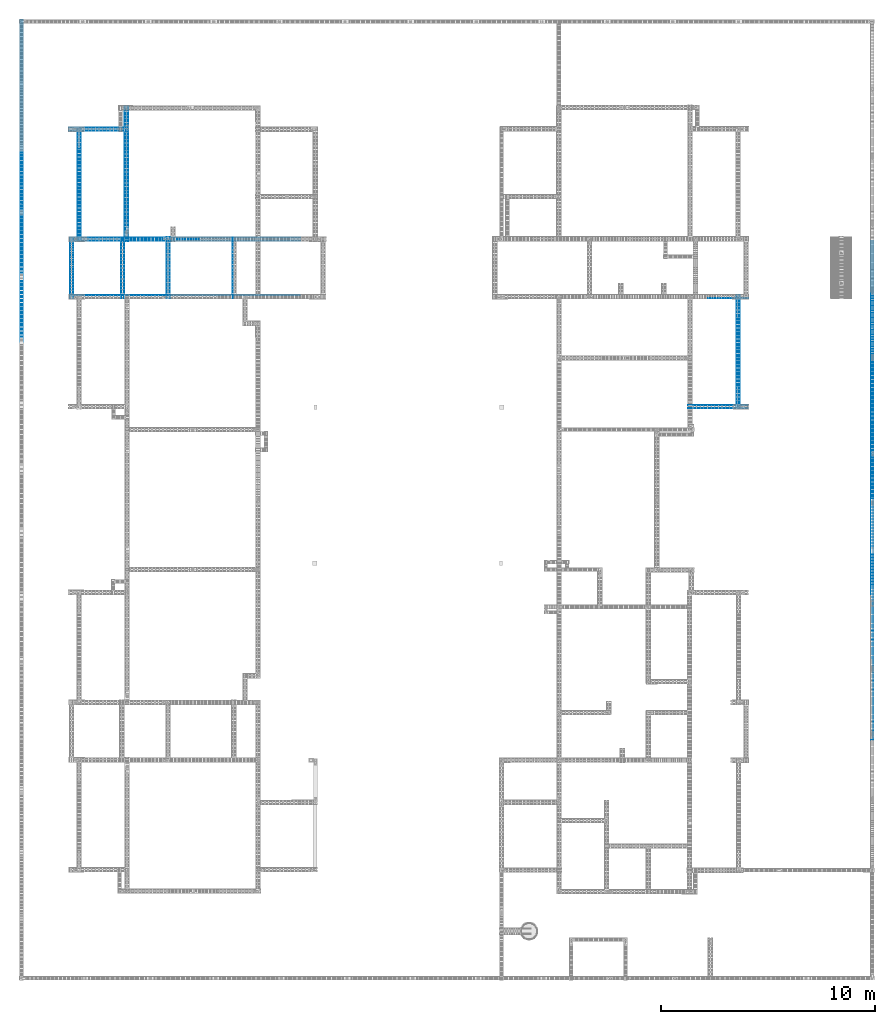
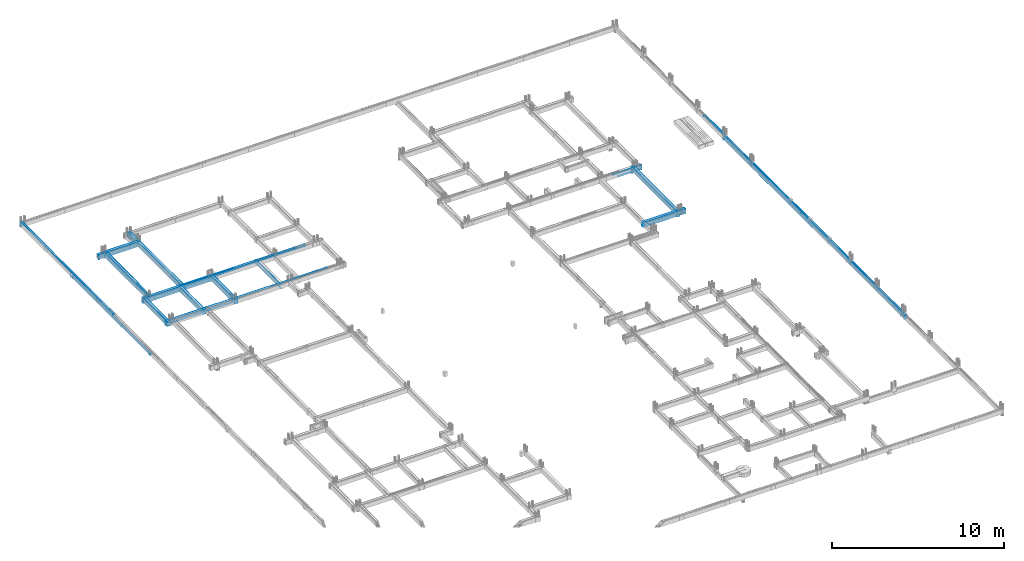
# One storey, part 13 of 150: 60 reinforcing bars.
"""IFC4 building model written with IfcOpenShell, lengths in centimetres."""

from ifc_helpers import new_model, entity, si_unit, derived_unit, frame, origin_with_axes, place, context, project, spatial, element, save


model = new_model("IFC4")

# Units and contexts
model_context = context("Model", 3, precision=1e-05, world=origin_with_axes(), identifier="Body")
ifc_project = project(units=[si_unit("LENGTHUNIT", "METRE", prefix="CENTI"), si_unit("VOLUMEUNIT", "CUBIC_METRE"), si_unit("AREAUNIT", "SQUARE_METRE"), si_unit("POWERUNIT", "WATT"), si_unit("LUMINOUSFLUXUNIT", "LUMEN"), si_unit("ELECTRICCURRENTUNIT", "AMPERE"), si_unit("PRESSUREUNIT", "PASCAL", prefix="KILO"), si_unit("MASSUNIT", "GRAM", prefix="KILO"), si_unit("PLANEANGLEUNIT", "RADIAN"), derived_unit("VOLUMETRICFLOWRATEUNIT", [(si_unit("LENGTHUNIT", "METRE"), 3), (si_unit("TIMEUNIT", "SECOND"), -1)])], contexts=[model_context])

# Site, building, storey
site_placement = place(None, frame((-4000.0, 0.0, 0.0), z_axis=(0.0, 0.0, 1.0), x_axis=(1.0, 0.0, 0.0)))
site = spatial("IfcSite", under=ifc_project, at=site_placement, Name="PADRÃO")
building_placement = place(site_placement, frame((0.0, 0.0, -14.0)))
building = spatial("IfcBuilding", under=site, at=building_placement, Name="CRECHE PRÉ-ESCOLA TIPO 2")
placement = place(building_placement, origin_with_axes())
storey_placement = place(placement, frame((0.0, 0.0, 30.0), z_axis=(0.0, 0.0, 1.0), x_axis=(1.0, 0.0, 0.0)))
storey = spatial("IfcBuildingStorey", under=building, at=storey_placement, Name="VIGA BALDRAME", CompositionType="ELEMENT", Elevation=16.0)

# Reinforcing bars
for number, where, z_axis, x_axis, name in (
    (1, (370.8518751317, 3990.85, -17.1), (0.0, 0.0, 1.0), (1.0, 0.0, 0.0), "V104 - Longitudinal inferior"),
    (2, (370.8518751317, 3976.65, -17.1), (0.0, 0.0, 1.0), (1.0, 0.0, 0.0), "V104 - Longitudinal inferior"),
):
    element("IfcReinforcingBar", number, at=place(storey_placement, frame(where, z_axis=z_axis, x_axis=x_axis)), inside=storey, Name=name, BarLength=0.0, CrossSectionArea=5.0265482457e-05, NominalDiameter=0.8, PredefinedType="MAIN", context=model_context, shape_type="AdvancedSweptSolid", body=[
        entity("IfcSweptDiskSolid", entity("IfcCompositeCurve", [entity("IfcCompositeCurveSegment", "CONTINUOUS", True, entity("IfcPolyline", [entity("IfcCartesianPoint", [-137.8218751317, 0.0, -10.0]), entity("IfcCartesianPoint", [137.4181248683, 0.0, -10.0])])), entity("IfcCompositeCurveSegment", "CONTINUOUS", True, entity("IfcPolyline", [entity("IfcCartesianPoint", [137.4181248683, 0.0, -10.0]), entity("IfcCartesianPoint", [137.4181248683, 0.0, 0.0])]))], False), 0.4),
    ])
for number, where, z_axis, x_axis, name in (
    (3, (370.85, 3990.75, -2.49531217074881), (0.0, 0.0, 1.0), (1.0, 0.0, 0.0), "V104 - Longitudinal superior"),
    (4, (370.85, 3976.75, -2.49531217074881), (0.0, 0.0, 1.0), (1.0, 0.0, 0.0), "V104 - Longitudinal superior"),
):
    element("IfcReinforcingBar", number, at=place(storey_placement, frame(where, z_axis=z_axis, x_axis=x_axis)), inside=storey, Name=name, BarLength=0.0, CrossSectionArea=7.853981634e-05, NominalDiameter=1.0, PredefinedType="MAIN", context=model_context, shape_type="AdvancedSweptSolid", body=[
        entity("IfcSweptDiskSolid", entity("IfcCompositeCurve", [entity("IfcCompositeCurveSegment", "CONTINUOUS", True, entity("IfcPolyline", [entity("IfcCartesianPoint", [-137.32, 0.0, -26.5046878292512]), entity("IfcCartesianPoint", [-137.32, 0.0, -0.504687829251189])])), entity("IfcCompositeCurveSegment", "CONTINUOUS", True, entity("IfcPolyline", [entity("IfcCartesianPoint", [-137.32, 0.0, -0.504687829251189]), entity("IfcCartesianPoint", [137.32, 0.0, -0.504687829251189])])), entity("IfcCompositeCurveSegment", "CONTINUOUS", True, entity("IfcPolyline", [entity("IfcCartesianPoint", [137.32, 0.0, -0.504687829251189]), entity("IfcCartesianPoint", [137.32, 0.0, -19.6170129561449])]))], False), 0.5),
    ])
for number, where, z_axis, x_axis, name in (
    (5, (463.005, 3461.9, -26.7), (0.0, 0.0, 1.0), (1.0, 0.0, 0.0), "V110 - Longitudinal inferior"),
    (6, (463.005, 3476.1, -26.7), (0.0, 0.0, 1.0), (1.0, 0.0, 0.0), "V110 - Longitudinal inferior"),
):
    element("IfcReinforcingBar", number, at=place(storey_placement, frame(where, z_axis=z_axis, x_axis=x_axis)), inside=storey, Name=name, BarLength=0.0, CrossSectionArea=5.0265482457e-05, NominalDiameter=0.8, PredefinedType="MAIN", context=model_context, shape_type="AdvancedSweptSolid", body=[
        entity("IfcSweptDiskSolid", entity("IfcCompositeCurve", [entity("IfcCompositeCurveSegment", "CONTINUOUS", True, entity("IfcPolyline", [entity("IfcCartesianPoint", [-228.995, 0.0, -0.4]), entity("IfcCartesianPoint", [228.995, 0.0, -0.4])]))], False), 0.4),
    ])
reinforcing_bar_1_placement = place(storey_placement, frame((658.73, 3469.0, -2.5), z_axis=(0.0, 0.0, 1.0), x_axis=(1.0, 0.0, 0.0)))
element("IfcReinforcingBar", 7, at=reinforcing_bar_1_placement, inside=storey, Name="V110 - Longitudinal superior", BarLength=0.0, CrossSectionArea=0.000122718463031, NominalDiameter=1.25, PredefinedType="MAIN", context=model_context, shape_type="AdvancedSweptSolid", body=[
    entity("IfcSweptDiskSolid", entity("IfcCompositeCurve", [entity("IfcCompositeCurveSegment", "CONTINUOUS", True, entity("IfcPolyline", [entity("IfcCartesianPoint", [-180.0, 0.0, -0.625]), entity("IfcCartesianPoint", [180.0, 0.0, -0.625])]))], False), 0.625),
])
for number, where, z_axis, x_axis, name in (
    (8, (774.247070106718, 3475.875, -2.49414021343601), (0.0, 0.0, 1.0), (1.0, 0.0, 0.0), "V110 - Longitudinal superior"),
    (9, (774.247070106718, 3462.125, -2.49414021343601), (0.0, 0.0, 1.0), (1.0, 0.0, 0.0), "V110 - Longitudinal superior"),
):
    element("IfcReinforcingBar", number, at=place(storey_placement, frame(where, z_axis=z_axis, x_axis=x_axis)), inside=storey, Name=name, BarLength=0.0, CrossSectionArea=0.000122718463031, NominalDiameter=1.25, PredefinedType="MAIN", context=model_context, shape_type="AdvancedSweptSolid", body=[
        entity("IfcSweptDiskSolid", entity("IfcCompositeCurve", [entity("IfcCompositeCurveSegment", "CONTINUOUS", True, entity("IfcPolyline", [entity("IfcCartesianPoint", [-537.882070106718, 0.0, -26.630859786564]), entity("IfcCartesianPoint", [-537.882070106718, 0.0, -0.630859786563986])])), entity("IfcCompositeCurveSegment", "CONTINUOUS", True, entity("IfcPolyline", [entity("IfcCartesianPoint", [-537.882070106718, 0.0, -0.630859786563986]), entity("IfcCartesianPoint", [538.512929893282, 0.0, -0.630859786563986])]))], False), 0.625),
    ])
reinforcing_bar_2_placement = place(storey_placement, frame((463.7381248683, 3207.12, -3.2095935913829), z_axis=(0.0, 0.0, 1.0), x_axis=(1.0, 0.0, 0.0)))
element("IfcReinforcingBar", 10, at=reinforcing_bar_2_placement, inside=storey, Name="V113 - Longitudinal inferior", BarLength=0.0, CrossSectionArea=5.0265482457e-05, NominalDiameter=0.8, PredefinedType="MAIN", context=model_context, shape_type="AdvancedSweptSolid", body=[
    entity("IfcSweptDiskSolid", entity("IfcCompositeCurve", [entity("IfcCompositeCurveSegment", "CONTINUOUS", True, entity("IfcPolyline", [entity("IfcCartesianPoint", [-227.5981248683, 0.0, 0.0]), entity("IfcCartesianPoint", [-227.5981248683, 0.0, -23.8904064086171])])), entity("IfcCompositeCurveSegment", "CONTINUOUS", True, entity("IfcPolyline", [entity("IfcCartesianPoint", [-227.5981248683, 0.0, -23.8904064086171]), entity("IfcCartesianPoint", [228.0018751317, 0.0, -23.8904064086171])]))], False), 0.4),
])
reinforcing_bar_3_placement = place(storey_placement, frame((773.252656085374, 3207.02, -2.49531217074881), z_axis=(0.0, 0.0, 1.0), x_axis=(1.0, 0.0, 0.0)))
element("IfcReinforcingBar", 11, at=reinforcing_bar_3_placement, inside=storey, Name="V113 - Longitudinal superior", BarLength=0.0, CrossSectionArea=7.853981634e-05, NominalDiameter=1.0, PredefinedType="MAIN", context=model_context, shape_type="AdvancedSweptSolid", body=[
    entity("IfcSweptDiskSolid", entity("IfcCompositeCurve", [entity("IfcCompositeCurveSegment", "CONTINUOUS", True, entity("IfcPolyline", [entity("IfcCartesianPoint", [-537.012656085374, 0.0, -26.5046878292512]), entity("IfcCartesianPoint", [-537.012656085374, 0.0, -0.504687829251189])])), entity("IfcCompositeCurveSegment", "CONTINUOUS", True, entity("IfcPolyline", [entity("IfcCartesianPoint", [-537.012656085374, 0.0, -0.504687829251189]), entity("IfcCartesianPoint", [537.517343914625, 0.0, -0.504687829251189])]))], False), 0.5),
])
reinforcing_bar_4_placement = place(storey_placement, frame((3334.25293155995, 3193.145, -11.5851398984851), z_axis=(0.0, 0.0, 1.0), x_axis=(1.0, 0.0, 0.0)))
element("IfcReinforcingBar", 12, at=reinforcing_bar_4_placement, inside=storey, Name="V114 - Longitudinal inferior", BarLength=0.0, CrossSectionArea=0.000122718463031, NominalDiameter=1.25, PredefinedType="MAIN", context=model_context, shape_type="AdvancedSweptSolid", body=[
    entity("IfcSweptDiskSolid", entity("IfcCompositeCurve", [entity("IfcCompositeCurveSegment", "CONTINUOUS", True, entity("IfcPolyline", [entity("IfcCartesianPoint", [-75.5029298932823, 0.0, -15.2898601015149]), entity("IfcCartesianPoint", [74.8720701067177, 0.0, -15.2898601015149])])), entity("IfcCompositeCurveSegment", "CONTINUOUS", True, entity("IfcPolyline", [entity("IfcCartesianPoint", [74.8720701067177, 0.0, -15.2898601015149]), entity("IfcCartesianPoint", [74.8720701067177, 0.0, 0.0])]))], False), 0.625),
])
reinforcing_bar_5_placement = place(storey_placement, frame((3316.75234558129, 3193.02, -2.49531217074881), z_axis=(0.0, 0.0, 1.0), x_axis=(1.0, 0.0, 0.0)))
element("IfcReinforcingBar", 13, at=reinforcing_bar_5_placement, inside=storey, Name="V114 - Longitudinal superior", BarLength=0.0, CrossSectionArea=7.853981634e-05, NominalDiameter=1.0, PredefinedType="MAIN", context=model_context, shape_type="AdvancedSweptSolid", body=[
    entity("IfcSweptDiskSolid", entity("IfcCompositeCurve", [entity("IfcCompositeCurveSegment", "CONTINUOUS", True, entity("IfcPolyline", [entity("IfcCartesianPoint", [-93.0023439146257, 0.0, -0.504687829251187]), entity("IfcCartesianPoint", [92.4976560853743, 0.0, -0.504687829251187])])), entity("IfcCompositeCurveSegment", "CONTINUOUS", True, entity("IfcPolyline", [entity("IfcCartesianPoint", [92.4976560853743, 0.0, -0.504687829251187]), entity("IfcCartesianPoint", [92.4976560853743, 0.0, -26.5046878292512])]))], False), 0.5),
])
for number, where, z_axis, x_axis, name in (
    (14, (3269.75, 2677.92, -26.7), (0.0, 0.0, 1.0), (1.0, 0.0, 0.0), "V118 - Longitudinal inferior"),
    (15, (3269.75, 2692.12, -26.7), (0.0, 0.0, 1.0), (1.0, 0.0, 0.0), "V118 - Longitudinal inferior"),
):
    element("IfcReinforcingBar", number, at=place(storey_placement, frame(where, z_axis=z_axis, x_axis=x_axis)), inside=storey, Name=name, BarLength=0.0, CrossSectionArea=5.0265482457e-05, NominalDiameter=0.8, PredefinedType="MAIN", context=model_context, shape_type="AdvancedSweptSolid", body=[
        entity("IfcSweptDiskSolid", entity("IfcCompositeCurve", [entity("IfcCompositeCurveSegment", "CONTINUOUS", True, entity("IfcPolyline", [entity("IfcCartesianPoint", [-139.25, 0.0, -0.4]), entity("IfcCartesianPoint", [139.25, 0.0, -0.4])]))], False), 0.4),
    ])
for number, where, z_axis, x_axis, name in (
    (16, (3269.75, 2692.02, -2.49531217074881), (0.0, 0.0, 1.0), (1.0, 0.0, 0.0), "V118 - Longitudinal superior"),
    (17, (3269.75, 2678.02, -2.49531217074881), (0.0, 0.0, 1.0), (1.0, 0.0, 0.0), "V118 - Longitudinal superior"),
):
    element("IfcReinforcingBar", number, at=place(storey_placement, frame(where, z_axis=z_axis, x_axis=x_axis)), inside=storey, Name=name, BarLength=0.0, CrossSectionArea=7.853981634e-05, NominalDiameter=1.0, PredefinedType="MAIN", context=model_context, shape_type="AdvancedSweptSolid", body=[
        entity("IfcSweptDiskSolid", entity("IfcCompositeCurve", [entity("IfcCompositeCurveSegment", "CONTINUOUS", True, entity("IfcPolyline", [entity("IfcCartesianPoint", [-138.75, 0.0, -26.5046878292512]), entity("IfcCartesianPoint", [-138.75, 0.0, -0.504687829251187])])), entity("IfcCompositeCurveSegment", "CONTINUOUS", True, entity("IfcPolyline", [entity("IfcCartesianPoint", [-138.75, 0.0, -0.504687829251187]), entity("IfcCartesianPoint", [138.75, 0.0, -0.504687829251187])])), entity("IfcCompositeCurveSegment", "CONTINUOUS", True, entity("IfcPolyline", [entity("IfcCartesianPoint", [138.75, 0.0, -0.504687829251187]), entity("IfcCartesianPoint", [138.75, 0.0, -26.5046878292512])]))], False), 0.5),
    ])
for number, where, z_axis, x_axis, name in (
    (18, (4.4, 3444.5, -26.7), (0.0, 0.0, 1.0), (1.0, 0.0, 0.0), "V159 - Longitudinal inferior"),
    (19, (13.6, 3444.5, -26.7), (0.0, 0.0, 1.0), (1.0, 0.0, 0.0), "V159 - Longitudinal inferior"),
):
    element("IfcReinforcingBar", number, at=place(storey_placement, frame(where, z_axis=z_axis, x_axis=x_axis)), inside=storey, Name=name, BarLength=0.0, CrossSectionArea=5.0265482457e-05, NominalDiameter=0.8, PredefinedType="MAIN", context=model_context, shape_type="AdvancedSweptSolid", body=[
        entity("IfcSweptDiskSolid", entity("IfcCompositeCurve", [entity("IfcCompositeCurveSegment", "CONTINUOUS", True, entity("IfcPolyline", [entity("IfcCartesianPoint", [0.0, -455.0, -0.4]), entity("IfcCartesianPoint", [0.0, 455.0, -0.4])]))], False), 0.4),
    ])
for number, where, z_axis, x_axis, name in (
    (20, (4.4, 3955.08208218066, -2.49624973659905), (0.0, 0.0, 1.0), (1.0, 0.0, 0.0), "V159 - Longitudinal superior"),
    (21, (13.6, 3955.08208218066, -2.49624973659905), (0.0, 0.0, 1.0), (1.0, 0.0, 0.0), "V159 - Longitudinal superior"),
):
    element("IfcReinforcingBar", number, at=place(storey_placement, frame(where, z_axis=z_axis, x_axis=x_axis)), inside=storey, Name=name, BarLength=0.0, CrossSectionArea=5.0265482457e-05, NominalDiameter=0.8, PredefinedType="MAIN", context=model_context, shape_type="AdvancedSweptSolid", body=[
        entity("IfcSweptDiskSolid", entity("IfcCompositeCurve", [entity("IfcCompositeCurveSegment", "CONTINUOUS", True, entity("IfcPolyline", [entity("IfcCartesianPoint", [0.0, -538.421668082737, -0.403750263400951]), entity("IfcCartesianPoint", [0.0, 538.017917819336, -0.403750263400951])])), entity("IfcCompositeCurveSegment", "CONTINUOUS", True, entity("IfcPolyline", [entity("IfcCartesianPoint", [0.0, 538.017917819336, -0.403750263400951]), entity("IfcCartesianPoint", [0.0, 538.017917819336, -25.7337502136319])]))], False), 0.4),
    ])
for number, where, z_axis, x_axis, name in (
    (22, (250.74, 3334.51, -26.5), (0.0, 0.0, 1.0), (1.0, 0.0, 0.0), "V164 - Longitudinal inferior"),
    (23, (236.74, 3334.51, -26.5), (0.0, 0.0, 1.0), (1.0, 0.0, 0.0), "V164 - Longitudinal inferior"),
):
    element("IfcReinforcingBar", number, at=place(storey_placement, frame(where, z_axis=z_axis, x_axis=x_axis)), inside=storey, Name=name, BarLength=0.0, CrossSectionArea=7.853981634e-05, NominalDiameter=1.0, PredefinedType="MAIN", context=model_context, shape_type="AdvancedSweptSolid", body=[
        entity("IfcSweptDiskSolid", entity("IfcCompositeCurve", [entity("IfcCompositeCurveSegment", "CONTINUOUS", True, entity("IfcPolyline", [entity("IfcCartesianPoint", [0.0, -142.49, -0.5]), entity("IfcCartesianPoint", [0.0, 142.49, -0.5])]))], False), 0.5),
    ])
for number, where, z_axis, x_axis, name in (
    (24, (236.64, 3334.51, -2.49624973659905), (0.0, 0.0, 1.0), (1.0, 0.0, 0.0), "V164 - Longitudinal superior"),
    (25, (250.84, 3334.51, -2.49624973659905), (0.0, 0.0, 1.0), (1.0, 0.0, 0.0), "V164 - Longitudinal superior"),
):
    element("IfcReinforcingBar", number, at=place(storey_placement, frame(where, z_axis=z_axis, x_axis=x_axis)), inside=storey, Name=name, BarLength=0.0, CrossSectionArea=5.0265482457e-05, NominalDiameter=0.8, PredefinedType="MAIN", context=model_context, shape_type="AdvancedSweptSolid", body=[
        entity("IfcSweptDiskSolid", entity("IfcCompositeCurve", [entity("IfcCompositeCurveSegment", "CONTINUOUS", True, entity("IfcPolyline", [entity("IfcCartesianPoint", [0.0, -142.09, -26.403750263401]), entity("IfcCartesianPoint", [0.0, -142.09, -0.403750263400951])])), entity("IfcCompositeCurveSegment", "CONTINUOUS", True, entity("IfcPolyline", [entity("IfcCartesianPoint", [0.0, -142.09, -0.403750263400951]), entity("IfcCartesianPoint", [0.0, 142.09, -0.403750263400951])])), entity("IfcCompositeCurveSegment", "CONTINUOUS", True, entity("IfcPolyline", [entity("IfcCartesianPoint", [0.0, 142.09, -0.403750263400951]), entity("IfcCartesianPoint", [0.0, 142.09, -24.2941566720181])]))], False), 0.4),
    ])
for number, where, z_axis, x_axis, name in (
    (26, (272.125, 3726.75, -11.875), (0.0, 0.0, 1.0), (1.0, 0.0, 0.0), "V165 - Longitudinal inferior"),
    (27, (285.875, 3726.75, -11.875), (0.0, 0.0, 1.0), (1.0, 0.0, 0.0), "V165 - Longitudinal inferior"),
):
    element("IfcReinforcingBar", number, at=place(storey_placement, frame(where, z_axis=z_axis, x_axis=x_axis)), inside=storey, Name=name, BarLength=0.0, CrossSectionArea=0.000122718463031, NominalDiameter=1.25, PredefinedType="MAIN", context=model_context, shape_type="AdvancedSweptSolid", body=[
        entity("IfcSweptDiskSolid", entity("IfcCompositeCurve", [entity("IfcCompositeCurveSegment", "CONTINUOUS", True, entity("IfcPolyline", [entity("IfcCartesianPoint", [0.0, -262.625, 0.0]), entity("IfcCartesianPoint", [0.0, -262.625, -15.0])])), entity("IfcCompositeCurveSegment", "CONTINUOUS", True, entity("IfcPolyline", [entity("IfcCartesianPoint", [0.0, -262.625, -15.0]), entity("IfcCartesianPoint", [0.0, 262.625, -15.0])])), entity("IfcCompositeCurveSegment", "CONTINUOUS", True, entity("IfcPolyline", [entity("IfcCartesianPoint", [0.0, 262.625, -15.0]), entity("IfcCartesianPoint", [0.0, 262.625, 0.0])]))], False), 0.625),
    ])
reinforcing_bar_6_placement = place(storey_placement, frame((279.0, 3735.0, -26.25), z_axis=(0.0, 0.0, 1.0), x_axis=(1.0, 0.0, 0.0)))
element("IfcReinforcingBar", 28, at=reinforcing_bar_6_placement, inside=storey, Name="V165 - Longitudinal inferior", BarLength=0.0, CrossSectionArea=0.000122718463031, NominalDiameter=1.25, PredefinedType="MAIN", context=model_context, shape_type="AdvancedSweptSolid", body=[
    entity("IfcSweptDiskSolid", entity("IfcCompositeCurve", [entity("IfcCompositeCurveSegment", "CONTINUOUS", True, entity("IfcPolyline", [entity("IfcCartesianPoint", [0.0, -155.0, -0.625]), entity("IfcCartesianPoint", [0.0, 155.0, -0.625])]))], False), 0.625),
])
reinforcing_bar_7_placement = place(storey_placement, frame((279.0, 3541.74707010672, -2.49414021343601), z_axis=(0.0, 0.0, 1.0), x_axis=(1.0, 0.0, 0.0)))
element("IfcReinforcingBar", 29, at=reinforcing_bar_7_placement, inside=storey, Name="V165 - Longitudinal superior", BarLength=0.0, CrossSectionArea=0.000122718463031, NominalDiameter=1.25, PredefinedType="MAIN", context=model_context, shape_type="AdvancedSweptSolid", body=[
    entity("IfcSweptDiskSolid", entity("IfcCompositeCurve", [entity("IfcCompositeCurveSegment", "CONTINUOUS", True, entity("IfcPolyline", [entity("IfcCartesianPoint", [0.0, -77.6220701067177, -29.9957878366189]), entity("IfcCartesianPoint", [0.0, -77.6220701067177, -0.630859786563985])])), entity("IfcCompositeCurveSegment", "CONTINUOUS", True, entity("IfcPolyline", [entity("IfcCartesianPoint", [0.0, -77.6220701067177, -0.630859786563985]), entity("IfcCartesianPoint", [0.0, 78.2529298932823, -0.630859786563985])]))], False), 0.625),
])
for number, where, z_axis, x_axis, name in (
    (30, (272.125, 3726.75, -2.49414021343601), (0.0, 0.0, 1.0), (1.0, 0.0, 0.0), "V165 - Longitudinal superior"),
    (31, (285.875, 3726.75, -2.49414021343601), (0.0, 0.0, 1.0), (1.0, 0.0, 0.0), "V165 - Longitudinal superior"),
):
    element("IfcReinforcingBar", number, at=place(storey_placement, frame(where, z_axis=z_axis, x_axis=x_axis)), inside=storey, Name=name, BarLength=0.0, CrossSectionArea=0.000122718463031, NominalDiameter=1.25, PredefinedType="MAIN", context=model_context, shape_type="AdvancedSweptSolid", body=[
        entity("IfcSweptDiskSolid", entity("IfcCompositeCurve", [entity("IfcCompositeCurveSegment", "CONTINUOUS", True, entity("IfcPolyline", [entity("IfcCartesianPoint", [0.0, -262.625, -29.9957878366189]), entity("IfcCartesianPoint", [0.0, -262.625, -0.630859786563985])])), entity("IfcCompositeCurveSegment", "CONTINUOUS", True, entity("IfcPolyline", [entity("IfcCartesianPoint", [0.0, -262.625, -0.630859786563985]), entity("IfcCartesianPoint", [0.0, 262.625, -0.630859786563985])])), entity("IfcCompositeCurveSegment", "CONTINUOUS", True, entity("IfcPolyline", [entity("IfcCartesianPoint", [0.0, 262.625, -0.630859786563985]), entity("IfcCartesianPoint", [0.0, 262.625, -30.2564561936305])]))], False), 0.625),
    ])
for number, where, z_axis, x_axis, name in (
    (32, (489.44, 3334.51, -2.5), (0.0, 0.0, 1.0), (1.0, 0.0, 0.0), "V172 - Longitudinal construtiva"),
    (33, (474.94, 3334.51, -2.5), (0.0, 0.0, 1.0), (1.0, 0.0, 0.0), "V172 - Longitudinal construtiva"),
):
    element("IfcReinforcingBar", number, at=place(storey_placement, frame(where, z_axis=z_axis, x_axis=x_axis)), inside=storey, Name=name, BarLength=0.0, CrossSectionArea=1.9634954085e-05, NominalDiameter=0.5, PredefinedType="MAIN", context=model_context, shape_type="AdvancedSweptSolid", body=[
        entity("IfcSweptDiskSolid", entity("IfcCompositeCurve", [entity("IfcCompositeCurveSegment", "CONTINUOUS", True, entity("IfcPolyline", [entity("IfcCartesianPoint", [0.0, -142.49, -0.25]), entity("IfcCartesianPoint", [0.0, 142.49, -0.25])]))], False), 0.25),
    ])
for number, where, z_axis, x_axis, name in (
    (34, (489.19, 3334.51, -26.5), (0.0, 0.0, 1.0), (1.0, 0.0, 0.0), "V172 - Longitudinal inferior"),
    (35, (475.19, 3334.51, -26.5), (0.0, 0.0, 1.0), (1.0, 0.0, 0.0), "V172 - Longitudinal inferior"),
):
    element("IfcReinforcingBar", number, at=place(storey_placement, frame(where, z_axis=z_axis, x_axis=x_axis)), inside=storey, Name=name, BarLength=0.0, CrossSectionArea=7.853981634e-05, NominalDiameter=1.0, PredefinedType="MAIN", context=model_context, shape_type="AdvancedSweptSolid", body=[
        entity("IfcSweptDiskSolid", entity("IfcCompositeCurve", [entity("IfcCompositeCurveSegment", "CONTINUOUS", True, entity("IfcPolyline", [entity("IfcCartesianPoint", [0.0, -142.49, -0.5]), entity("IfcCartesianPoint", [0.0, 142.49, -0.5])]))], False), 0.5),
    ])
for number, where, z_axis, x_axis, name in (
    (36, (493.315, 3775.5, -11.5851398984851), (0.0, 0.0, 1.0), (1.0, 0.0, 0.0), "V173 - Longitudinal inferior"),
    (37, (507.065, 3775.5, -11.5851398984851), (0.0, 0.0, 1.0), (1.0, 0.0, 0.0), "V173 - Longitudinal inferior"),
):
    element("IfcReinforcingBar", number, at=place(storey_placement, frame(where, z_axis=z_axis, x_axis=x_axis)), inside=storey, Name=name, BarLength=0.0, CrossSectionArea=0.000122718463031, NominalDiameter=1.25, PredefinedType="MAIN", context=model_context, shape_type="AdvancedSweptSolid", body=[
        entity("IfcSweptDiskSolid", entity("IfcCompositeCurve", [entity("IfcCompositeCurveSegment", "CONTINUOUS", True, entity("IfcPolyline", [entity("IfcCartesianPoint", [0.0, -313.875, 0.0]), entity("IfcCartesianPoint", [0.0, -313.875, -15.2898601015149])])), entity("IfcCompositeCurveSegment", "CONTINUOUS", True, entity("IfcPolyline", [entity("IfcCartesianPoint", [0.0, -313.875, -15.2898601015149]), entity("IfcCartesianPoint", [0.0, 313.875, -15.2898601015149])])), entity("IfcCompositeCurveSegment", "CONTINUOUS", True, entity("IfcPolyline", [entity("IfcCartesianPoint", [0.0, 313.875, -15.2898601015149]), entity("IfcCartesianPoint", [0.0, 313.875, 0.0])]))], False), 0.625),
    ])
for number, where, z_axis, x_axis, name in (
    (38, (493.315, 3775.5, -2.49414021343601), (0.0, 0.0, 1.0), (1.0, 0.0, 0.0), "V173 - Longitudinal superior"),
    (39, (507.065, 3775.5, -2.49414021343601), (0.0, 0.0, 1.0), (1.0, 0.0, 0.0), "V173 - Longitudinal superior"),
):
    element("IfcReinforcingBar", number, at=place(storey_placement, frame(where, z_axis=z_axis, x_axis=x_axis)), inside=storey, Name=name, BarLength=0.0, CrossSectionArea=0.000122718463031, NominalDiameter=1.25, PredefinedType="MAIN", context=model_context, shape_type="AdvancedSweptSolid", body=[
        entity("IfcSweptDiskSolid", entity("IfcCompositeCurve", [entity("IfcCompositeCurveSegment", "CONTINUOUS", True, entity("IfcPolyline", [entity("IfcCartesianPoint", [0.0, -313.875, -26.630859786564]), entity("IfcCartesianPoint", [0.0, -313.875, -0.630859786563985])])), entity("IfcCompositeCurveSegment", "CONTINUOUS", True, entity("IfcPolyline", [entity("IfcCartesianPoint", [0.0, -313.875, -0.630859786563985]), entity("IfcCartesianPoint", [0.0, 313.875, -0.630859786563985])])), entity("IfcCompositeCurveSegment", "CONTINUOUS", True, entity("IfcPolyline", [entity("IfcCartesianPoint", [0.0, 313.875, -0.630859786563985]), entity("IfcCartesianPoint", [0.0, 313.875, -26.630859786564])]))], False), 0.625),
    ])
for number, where, z_axis, x_axis, name in (
    (40, (702.73, 3334.99, -26.5), (0.0, 0.0, 1.0), (1.0, 0.0, 0.0), "V176 - Longitudinal inferior"),
    (41, (688.73, 3334.99, -26.5), (0.0, 0.0, 1.0), (1.0, 0.0, 0.0), "V176 - Longitudinal inferior"),
):
    element("IfcReinforcingBar", number, at=place(storey_placement, frame(where, z_axis=z_axis, x_axis=x_axis)), inside=storey, Name=name, BarLength=0.0, CrossSectionArea=7.853981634e-05, NominalDiameter=1.0, PredefinedType="MAIN", context=model_context, shape_type="AdvancedSweptSolid", body=[
        entity("IfcSweptDiskSolid", entity("IfcCompositeCurve", [entity("IfcCompositeCurveSegment", "CONTINUOUS", True, entity("IfcPolyline", [entity("IfcCartesianPoint", [0.0, -142.5, -0.5]), entity("IfcCartesianPoint", [0.0, 142.5, -0.5])]))], False), 0.5),
    ])
for number, where, z_axis, x_axis, name in (
    (42, (688.63, 3334.99, -2.49624973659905), (0.0, 0.0, 1.0), (1.0, 0.0, 0.0), "V176 - Longitudinal superior"),
    (43, (702.83, 3334.99, -2.49624973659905), (0.0, 0.0, 1.0), (1.0, 0.0, 0.0), "V176 - Longitudinal superior"),
):
    element("IfcReinforcingBar", number, at=place(storey_placement, frame(where, z_axis=z_axis, x_axis=x_axis)), inside=storey, Name=name, BarLength=0.0, CrossSectionArea=5.0265482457e-05, NominalDiameter=0.8, PredefinedType="MAIN", context=model_context, shape_type="AdvancedSweptSolid", body=[
        entity("IfcSweptDiskSolid", entity("IfcCompositeCurve", [entity("IfcCompositeCurveSegment", "CONTINUOUS", True, entity("IfcPolyline", [entity("IfcCartesianPoint", [0.0, -142.1, -24.2941566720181]), entity("IfcCartesianPoint", [0.0, -142.1, -0.403750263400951])])), entity("IfcCompositeCurveSegment", "CONTINUOUS", True, entity("IfcPolyline", [entity("IfcCartesianPoint", [0.0, -142.1, -0.403750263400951]), entity("IfcCartesianPoint", [0.0, 142.1, -0.403750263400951])])), entity("IfcCompositeCurveSegment", "CONTINUOUS", True, entity("IfcPolyline", [entity("IfcCartesianPoint", [0.0, 142.1, -0.403750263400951]), entity("IfcCartesianPoint", [0.0, 142.1, -24.2941566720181])]))], False), 0.4),
    ])
reinforcing_bar_8_placement = place(storey_placement, frame((996.48, 3334.51, -2.5), z_axis=(0.0, 0.0, 1.0), x_axis=(1.0, 0.0, 0.0)))
element("IfcReinforcingBar", 44, at=reinforcing_bar_8_placement, inside=storey, Name="V179 - Longitudinal construtiva", BarLength=0.0, CrossSectionArea=1.9634954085e-05, NominalDiameter=0.5, PredefinedType="MAIN", context=model_context, shape_type="AdvancedSweptSolid", body=[
    entity("IfcSweptDiskSolid", entity("IfcCompositeCurve", [entity("IfcCompositeCurveSegment", "CONTINUOUS", True, entity("IfcPolyline", [entity("IfcCartesianPoint", [0.0, -142.49, -0.25]), entity("IfcCartesianPoint", [0.0, 142.49, -0.25])]))], False), 0.25),
])
reinforcing_bar_9_placement = place(storey_placement, frame((996.73, 3334.51, -26.5), z_axis=(0.0, 0.0, 1.0), x_axis=(1.0, 0.0, 0.0)))
element("IfcReinforcingBar", 45, at=reinforcing_bar_9_placement, inside=storey, Name="V179 - Longitudinal inferior", BarLength=0.0, CrossSectionArea=7.853981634e-05, NominalDiameter=1.0, PredefinedType="MAIN", context=model_context, shape_type="AdvancedSweptSolid", body=[
    entity("IfcSweptDiskSolid", entity("IfcCompositeCurve", [entity("IfcCompositeCurveSegment", "CONTINUOUS", True, entity("IfcPolyline", [entity("IfcCartesianPoint", [0.0, -142.49, -0.5]), entity("IfcCartesianPoint", [0.0, 142.49, -0.5])]))], False), 0.5),
])
for number, where, z_axis, x_axis, name in (
    (46, (3356.125, 2943.27, -11.875), (0.0, 0.0, 1.0), (1.0, 0.0, 0.0), "V227 - Longitudinal inferior"),
    (47, (3369.875, 2943.27, -11.875), (0.0, 0.0, 1.0), (1.0, 0.0, 0.0), "V227 - Longitudinal inferior"),
):
    element("IfcReinforcingBar", number, at=place(storey_placement, frame(where, z_axis=z_axis, x_axis=x_axis)), inside=storey, Name=name, BarLength=0.0, CrossSectionArea=0.000122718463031, NominalDiameter=1.25, PredefinedType="MAIN", context=model_context, shape_type="AdvancedSweptSolid", body=[
        entity("IfcSweptDiskSolid", entity("IfcCompositeCurve", [entity("IfcCompositeCurveSegment", "CONTINUOUS", True, entity("IfcPolyline", [entity("IfcCartesianPoint", [0.0, -262.625, 0.0]), entity("IfcCartesianPoint", [0.0, -262.625, -15.0])])), entity("IfcCompositeCurveSegment", "CONTINUOUS", True, entity("IfcPolyline", [entity("IfcCartesianPoint", [0.0, -262.625, -15.0]), entity("IfcCartesianPoint", [0.0, 262.625, -15.0])])), entity("IfcCompositeCurveSegment", "CONTINUOUS", True, entity("IfcPolyline", [entity("IfcCartesianPoint", [0.0, 262.625, -15.0]), entity("IfcCartesianPoint", [0.0, 262.625, 0.0])]))], False), 0.625),
    ])
reinforcing_bar_10_placement = place(storey_placement, frame((3363.0, 2937.52, -26.25), z_axis=(0.0, 0.0, 1.0), x_axis=(1.0, 0.0, 0.0)))
element("IfcReinforcingBar", 48, at=reinforcing_bar_10_placement, inside=storey, Name="V227 - Longitudinal inferior", BarLength=0.0, CrossSectionArea=0.000122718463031, NominalDiameter=1.25, PredefinedType="MAIN", context=model_context, shape_type="AdvancedSweptSolid", body=[
    entity("IfcSweptDiskSolid", entity("IfcCompositeCurve", [entity("IfcCompositeCurveSegment", "CONTINUOUS", True, entity("IfcPolyline", [entity("IfcCartesianPoint", [0.0, -157.5, -0.625]), entity("IfcCartesianPoint", [0.0, 157.5, -0.625])]))], False), 0.625),
])
for number, where, z_axis, x_axis, name in (
    (49, (3356.125, 2943.27, -2.49414021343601), (0.0, 0.0, 1.0), (1.0, 0.0, 0.0), "V227 - Longitudinal superior"),
    (50, (3369.875, 2943.27, -2.49414021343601), (0.0, 0.0, 1.0), (1.0, 0.0, 0.0), "V227 - Longitudinal superior"),
):
    element("IfcReinforcingBar", number, at=place(storey_placement, frame(where, z_axis=z_axis, x_axis=x_axis)), inside=storey, Name=name, BarLength=0.0, CrossSectionArea=0.000122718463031, NominalDiameter=1.25, PredefinedType="MAIN", context=model_context, shape_type="AdvancedSweptSolid", body=[
        entity("IfcSweptDiskSolid", entity("IfcCompositeCurve", [entity("IfcCompositeCurveSegment", "CONTINUOUS", True, entity("IfcPolyline", [entity("IfcCartesianPoint", [0.0, -262.625, -31.7908958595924]), entity("IfcCartesianPoint", [0.0, -262.625, -0.630859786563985])])), entity("IfcCompositeCurveSegment", "CONTINUOUS", True, entity("IfcPolyline", [entity("IfcCartesianPoint", [0.0, -262.625, -0.630859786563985]), entity("IfcCartesianPoint", [0.0, 262.625, -0.630859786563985])])), entity("IfcCompositeCurveSegment", "CONTINUOUS", True, entity("IfcPolyline", [entity("IfcCartesianPoint", [0.0, 262.625, -0.630859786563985]), entity("IfcCartesianPoint", [0.0, 262.625, -40.7271798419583])]))], False), 0.625),
    ])
reinforcing_bar_11_placement = place(storey_placement, frame((3987.0, 2719.1663499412, -41.5), z_axis=(0.0, 0.0, 1.0), x_axis=(1.0, 0.0, 0.0)))
element("IfcReinforcingBar", 51, at=reinforcing_bar_11_placement, inside=storey, Name="V230 - Longitudinal inferior", BarLength=0.0, CrossSectionArea=7.853981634e-05, NominalDiameter=1.0, PredefinedType="MAIN", context=model_context, shape_type="AdvancedSweptSolid", body=[
    entity("IfcSweptDiskSolid", entity("IfcCompositeCurve", [entity("IfcCompositeCurveSegment", "CONTINUOUS", True, entity("IfcPolyline", [entity("IfcCartesianPoint", [0.0, -513.833650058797, -0.5]), entity("IfcCartesianPoint", [0.0, 513.833650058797, -0.5])]))], False), 0.5),
])
for number, where, z_axis, x_axis, name in (
    (52, (3996.0, 1702.9, -41.5), (0.0, 0.0, 1.0), (1.0, 0.0, 0.0), "V230 - Longitudinal inferior"),
    (53, (3991.5, 1702.9, -41.5), (0.0, 0.0, 1.0), (1.0, 0.0, 0.0), "V230 - Longitudinal inferior"),
):
    element("IfcReinforcingBar", number, at=place(storey_placement, frame(where, z_axis=z_axis, x_axis=x_axis)), inside=storey, Name=name, BarLength=0.0, CrossSectionArea=7.853981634e-05, NominalDiameter=1.0, PredefinedType="MAIN", context=model_context, shape_type="AdvancedSweptSolid", body=[
        entity("IfcSweptDiskSolid", entity("IfcCompositeCurve", [entity("IfcCompositeCurveSegment", "CONTINUOUS", True, entity("IfcPolyline", [entity("IfcCartesianPoint", [0.0, -569.147300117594, -0.5]), entity("IfcCartesianPoint", [0.0, 569.147300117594, -0.5])]))], False), 0.5),
    ])
reinforcing_bar_12_placement = place(storey_placement, frame((3996.0, 2719.1663499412, -41.5), z_axis=(0.0, 0.0, 1.0), x_axis=(1.0, 0.0, 0.0)))
element("IfcReinforcingBar", 54, at=reinforcing_bar_12_placement, inside=storey, Name="V230 - Longitudinal inferior", BarLength=0.0, CrossSectionArea=7.853981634e-05, NominalDiameter=1.0, PredefinedType="MAIN", context=model_context, shape_type="AdvancedSweptSolid", body=[
    entity("IfcSweptDiskSolid", entity("IfcCompositeCurve", [entity("IfcCompositeCurveSegment", "CONTINUOUS", True, entity("IfcPolyline", [entity("IfcCartesianPoint", [0.0, -513.833650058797, -0.5]), entity("IfcCartesianPoint", [0.0, 513.833650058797, -0.5])]))], False), 0.5),
])
for number, where, z_axis, x_axis, name in (
    (55, (3987.0, 1727.0, -17.5), (0.0, 0.0, 1.0), (1.0, 0.0, 0.0), "V230 - Longitudinal superior"),
    (56, (3996.0, 1727.0, -17.5), (0.0, 0.0, 1.0), (1.0, 0.0, 0.0), "V230 - Longitudinal superior"),
    (57, (3987.0, 2860.0, -17.5), (0.0, 0.0, 1.0), (1.0, 0.0, 0.0), "V230 - Longitudinal superior"),
    (58, (3996.0, 2860.0, -17.5), (0.0, 0.0, 1.0), (1.0, 0.0, 0.0), "V230 - Longitudinal superior"),
):
    element("IfcReinforcingBar", number, at=place(storey_placement, frame(where, z_axis=z_axis, x_axis=x_axis)), inside=storey, Name=name, BarLength=0.0, CrossSectionArea=7.853981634e-05, NominalDiameter=1.0, PredefinedType="MAIN", context=model_context, shape_type="AdvancedSweptSolid", body=[
        entity("IfcSweptDiskSolid", entity("IfcCompositeCurve", [entity("IfcCompositeCurveSegment", "CONTINUOUS", True, entity("IfcPolyline", [entity("IfcCartesianPoint", [0.0, -600.0, -0.5]), entity("IfcCartesianPoint", [0.0, 600.0, -0.5])]))], False), 0.5),
    ])
reinforcing_bar_13_placement = place(storey_placement, frame((3991.5, 1710.81, -17.5), z_axis=(0.0, 0.0, 1.0), x_axis=(1.0, 0.0, 0.0)))
element("IfcReinforcingBar", 59, at=reinforcing_bar_13_placement, inside=storey, Name="V230 - Longitudinal superior", BarLength=0.0, CrossSectionArea=7.853981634e-05, NominalDiameter=1.0, PredefinedType="MAIN", context=model_context, shape_type="AdvancedSweptSolid", body=[
    entity("IfcSweptDiskSolid", entity("IfcCompositeCurve", [entity("IfcCompositeCurveSegment", "CONTINUOUS", True, entity("IfcPolyline", [entity("IfcCartesianPoint", [0.0, -203.3, -0.5]), entity("IfcCartesianPoint", [0.0, 203.3, -0.5])]))], False), 0.5),
])
reinforcing_bar_14_placement = place(storey_placement, frame((3991.5, 2649.635, -17.5), z_axis=(0.0, 0.0, 1.0), x_axis=(1.0, 0.0, 0.0)))
element("IfcReinforcingBar", 60, at=reinforcing_bar_14_placement, inside=storey, Name="V230 - Longitudinal superior", BarLength=0.0, CrossSectionArea=7.853981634e-05, NominalDiameter=1.0, PredefinedType="MAIN", context=model_context, shape_type="AdvancedSweptSolid", body=[
    entity("IfcSweptDiskSolid", entity("IfcCompositeCurve", [entity("IfcCompositeCurveSegment", "CONTINUOUS", True, entity("IfcPolyline", [entity("IfcCartesianPoint", [0.0, -354.865, -0.5]), entity("IfcCartesianPoint", [0.0, 354.865, -0.5])]))], False), 0.5),
])

save(model, "model.ifc")
